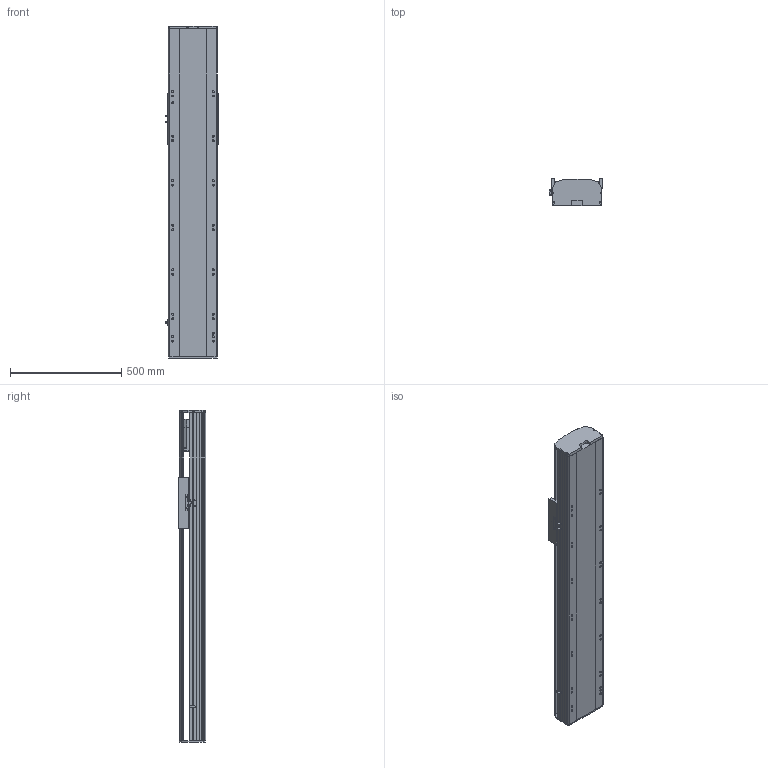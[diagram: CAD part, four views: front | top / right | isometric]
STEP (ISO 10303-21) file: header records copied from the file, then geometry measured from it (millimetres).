
FILE_DESCRIPTION (( 'STEP AP214' ), '1' );
FILE_NAME ('RTH22-XX-900-B-M75-C4.STEP', '2025-10-24T10:31:47', ( 'Microsoft' ), ( 'Microsoft' ), 'SwSTEP 2.0', 'SolidWorks 2018', '' );
FILE_SCHEMA (( 'AUTOMOTIVE_DESIGN' ));
Length unit declared in the file: millimetre
Products named in the file (9): N_RTH22-E-004-SFS25賑釱^RTH22-XX-XX-B-M75-C4; RTH22-XX-900-B-M75-C4; N_RTH22-B-008萇儂啣^RTH22-XX-XX-B-M75-C4; N_RTH22-GY-013外置感应片^RTH22-XX-XX-B-M75-C4; N_750W萇儂^RTH22-XX-XX-B-M75-C4; N_RTH22-B-007奻裔^RTH22-XX-XX-B-M75-C4; N_RTH22-GY-001耜裔^RTH22-XX-XX-B-M75-C4; N_RTH22-B-011菁釱^RTH22-XX-XX-B-M75-C4; N_OMRON EE-SX672 传感器^RTH22-XX-XX-B-M75-C4
Assembly tree (10 placements, depth 2):
  RTH22-XX-900-B-M75-C4
    N_RTH22-B-011菁釱^RTH22-XX-XX-B-M75-C4
    N_RTH22-GY-001耜裔^RTH22-XX-XX-B-M75-C4
    N_750W萇儂^RTH22-XX-XX-B-M75-C4
    N_RTH22-B-008萇儂啣^RTH22-XX-XX-B-M75-C4
    N_RTH22-B-007奻裔^RTH22-XX-XX-B-M75-C4
    N_OMRON EE-SX672 传感器^RTH22-XX-XX-B-M75-C4  x3
    N_RTH22-GY-013外置感应片^RTH22-XX-XX-B-M75-C4
    N_RTH22-E-004-SFS25賑釱^RTH22-XX-XX-B-M75-C4
Bounding box: 238.5 x 122 x 1490 mm (x, y, z)
Volume: 20313256 mm3; surface area: 2098255.7 mm2
Topology: 10 solids, 10 shells, 1533 faces, 4200 edges, 2713 vertices
Faces by surface type: plane 754, cylinder 442, bspline 279, cone 58
Entity records: 38091 total; most frequent: CARTESIAN_POINT 11845, ORIENTED_EDGE 5376, DIRECTION 5046, EDGE_CURVE 2688, VERTEX_POINT 1749, AXIS2_PLACEMENT_3D 1698, VECTOR 1650, LINE 1650
